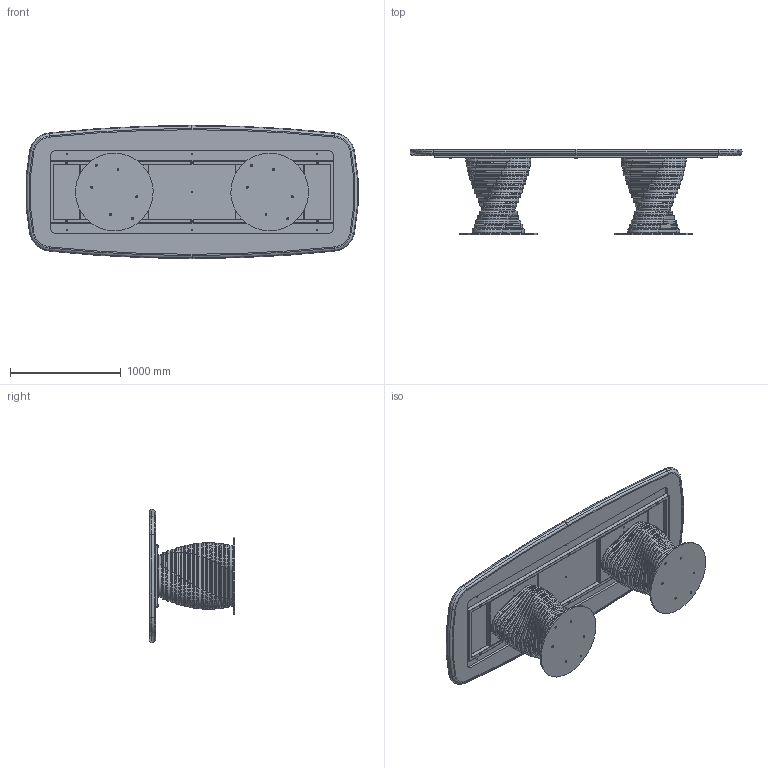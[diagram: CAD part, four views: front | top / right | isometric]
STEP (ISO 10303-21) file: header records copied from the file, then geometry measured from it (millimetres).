
FILE_DESCRIPTION (( 'STEP AP203' ), '1' );
FILE_NAME ('RO24K_Rotolo_300x120_King.STEP', '2024-08-02T08:09:17', ( '' ), ( '' ), 'SwSTEP 2.0', 'SolidWorks 2022', '' );
FILE_SCHEMA (( 'CONFIG_CONTROL_DESIGN' ));
Length unit declared in the file: millimetre
Products named in the file (15): RO24K_Rotolo_300x120_King; ROBX00000MED-00-Anello rotolo MEDIO_Default<A macchina>; ROBX00000-00-ROTOLO BASE 17 ANELLI; rondella M8_8X24; ASSIEME PIANO+CERAMICA 300X120; M8xXXmm_M8x55mm; TTAV03-06-TELAIO UNIVERSALE X TAVOLI 300-340cm; K51-00-PIANO SOLO CERAMICA 297x116.7cm sag; ROBX00000INF-00-Anello rotolo INFERIORE_Default<A macchina>; ROB200000-00-PIASTRA BASE_Ø70cm; TTAV03_02-06-VASSOIO IRRIGIDIMENTO TELAIO UNIVERSALE RETTANGOLARE; TTAV03_01-06-RING TUBO TELAIO UNIVERSALE X TAVOLI 300-340cm; W51-01-PIANO KING BORDO 300X120 SAGOMATO LACCATO; ROBX00000SUP-00-Anello rotolo SUPERIORE_Default<A macchina>; COLLO TELAIO UNIVERSALE TTAV03 CON FERRAMENTA_MTG TOP LEGNO-MARMO-KING
Assembly tree (41 placements, depth 4):
  RO24K_Rotolo_300x120_King
    ROB200000-00-PIASTRA BASE_Ø70cm  x2
    COLLO TELAIO UNIVERSALE TTAV03 CON FERRAMENTA_MTG TOP LEGNO-MARMO-KING
      TTAV03-06-TELAIO UNIVERSALE X TAVOLI 300-340cm
        TTAV03_01-06-RING TUBO TELAIO UNIVERSALE X TAVOLI 300-340cm
        TTAV03_02-06-VASSOIO IRRIGIDIMENTO TELAIO UNIVERSALE RETTANGOLARE  x2
      rondella M8_8X24  x6
      M8xXXmm_M8x55mm  x6
    ROBX00000-00-ROTOLO BASE 17 ANELLI  x2
      ROBX00000INF-00-Anello rotolo INFERIORE_Default<A macchina>
      ROBX00000MED-00-Anello rotolo MEDIO_Default<A macchina>
      ROBX00000SUP-00-Anello rotolo SUPERIORE_Default<A macchina>
    ASSIEME PIANO+CERAMICA 300X120
      W51-01-PIANO KING BORDO 300X120 SAGOMATO LACCATO
      K51-00-PIANO SOLO CERAMICA 297x116.7cm sag
Bounding box: 2991.72 x 768 x 1200 mm (x, y, z)
Volume: 169418151.5 mm3; surface area: 28210149.3 mm2
Topology: 155 solids, 155 shells, 2381 faces, 5822 edges, 3703 vertices
Faces by surface type: cylinder 929, plane 878, torus 394, cone 172, sphere 8
Entity records: 23310 total; most frequent: CARTESIAN_POINT 5122, DIRECTION 3541, ORIENTED_EDGE 3148, EDGE_CURVE 1574, AXIS2_PLACEMENT_3D 1374, VERTEX_POINT 979, LINE 793, VECTOR 793
